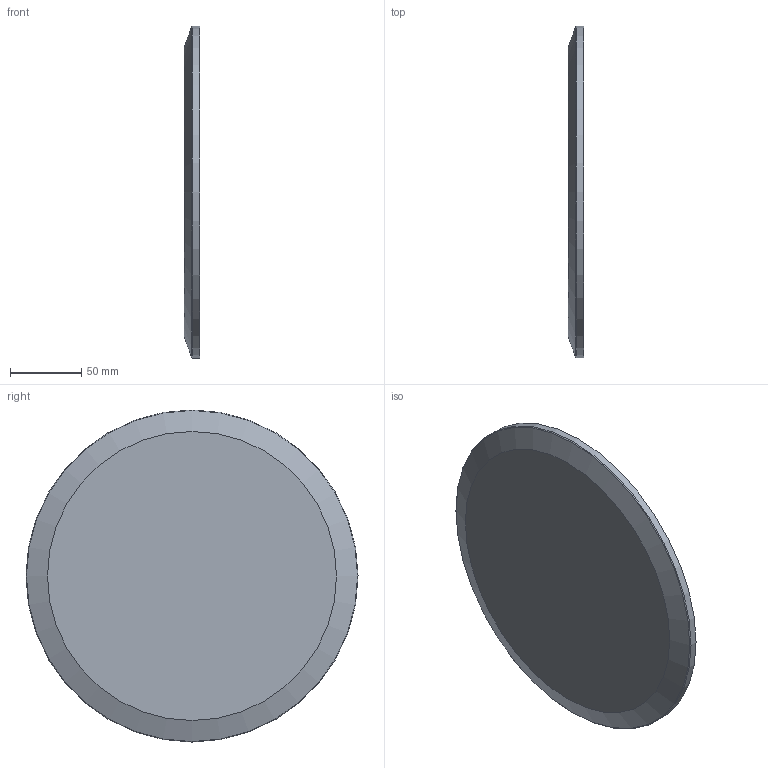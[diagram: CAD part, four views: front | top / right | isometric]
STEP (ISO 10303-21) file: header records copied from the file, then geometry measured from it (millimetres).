
FILE_DESCRIPTION(/* description */ (''),/* implementation_level */ '2;1');
FILE_NAME(/* name */ '12766-Ferrule size-233.stp',/* time_stamp */ '2024-12-26T21:16:41+01:00',/* author */ ('roger.thijssen'),/* organization */ (''),/* preprocessor_version */ 'ST-DEVELOPER v20',/* originating_system */ 'Autodesk Inventor 2025',/* authorisation */ '');
FILE_SCHEMA (('AUTOMOTIVE_DESIGN { 1 0 10303 214 3 1 1 }'));
Length unit declared in the file: millimetre
Products named in the file (1): 12766-Ferrule size-233
Bounding box: 11.1 x 233.5 x 233.5 mm (x, y, z)
Volume: 443632.9 mm3; surface area: 91372.2 mm2
Topology: 1 solids, 1 shells, 11 faces, 22 edges, 14 vertices
Faces by surface type: torus 4, plane 3, cone 3, cylinder 1
Full cylindrical faces by diameter (mm): 233.5 x1
Entity records: 361 total; most frequent: DIRECTION 64, CARTESIAN_POINT 48, ORIENTED_EDGE 44, AXIS2_PLACEMENT_3D 30, EDGE_CURVE 22, CIRCLE 18, VERTEX_POINT 14, EDGE_LOOP 12
